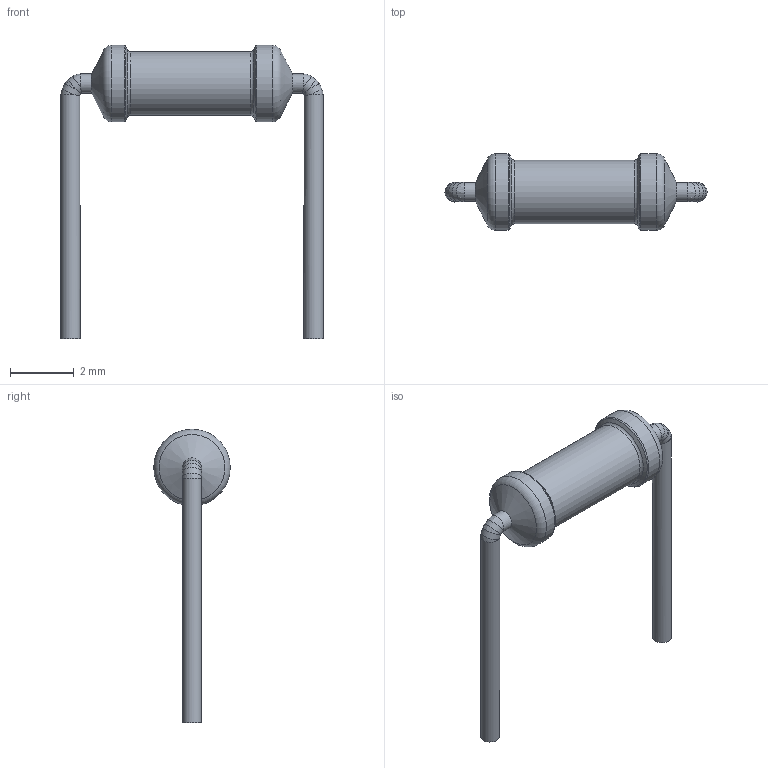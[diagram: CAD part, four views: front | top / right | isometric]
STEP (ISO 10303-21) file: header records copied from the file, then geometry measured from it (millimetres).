
FILE_DESCRIPTION(/* description */ (''),/* implementation_level */ '2;1');
FILE_NAME(/* name */ 'Resistor_6.3x2.4_pitch7.62.step',/* time_stamp */ '2026-10-10T00:07:39+07:00',/* author */ (''),/* organization */ (''),/* preprocessor_version */ 'ST-DEVELOPER v20.2',/* originating_system */ 'Autodesk Translation Framework v15.15.0.0',/* authorisation */ '');
FILE_SCHEMA (('AUTOMOTIVE_DESIGN { 1 0 10303 214 3 1 1 }'));
Length unit declared in the file: millimetre
Products named in the file (3): 2026-10-09-23-40-22-152; 2026-10-09-22-28-39-969; 2026-10-09-23-05-43-841
Assembly tree (3 placements, depth 2):
  2026-10-09-23-40-22-152
    2026-10-09-22-28-39-969
    2026-10-09-23-05-43-841  x2
Bounding box: 8.22 x 2.4 x 9.2 mm (x, y, z)
Volume: 25.4 mm3; surface area: 79.7 mm2
Topology: 3 solids, 3 shells, 35 faces, 97 edges, 56 vertices
Faces by surface type: cylinder 11, bspline 8, plane 6, torus 6, cone 4
Full cylindrical faces by diameter (mm): 0.6 x8, 2 x1, 2.4 x2
Entity records: 919 total; most frequent: CARTESIAN_POINT 191, DIRECTION 165, ORIENTED_EDGE 120, AXIS2_PLACEMENT_3D 77, EDGE_CURVE 60, CIRCLE 46, VERTEX_POINT 40, FACE_OUTER_BOUND 24
